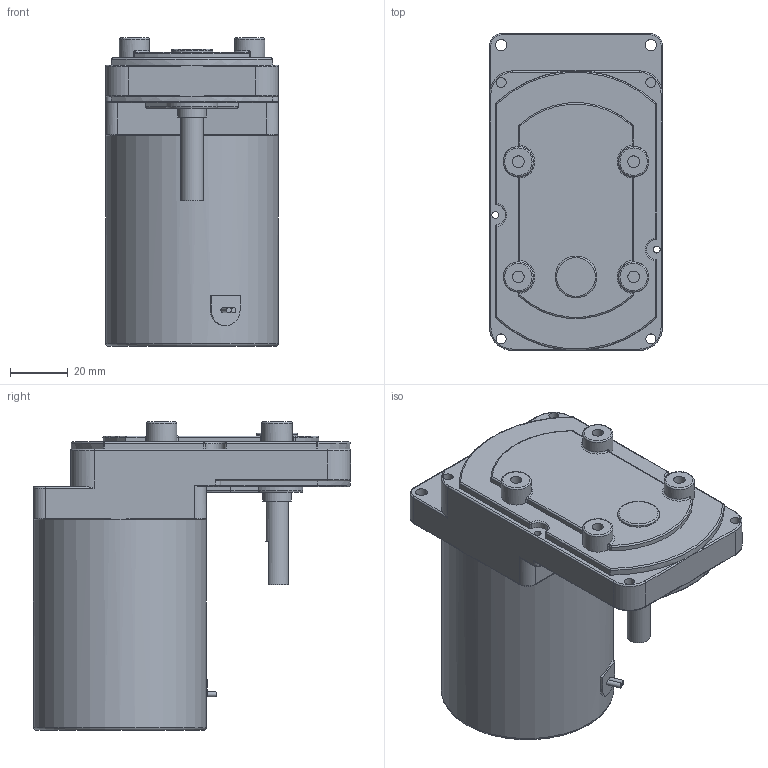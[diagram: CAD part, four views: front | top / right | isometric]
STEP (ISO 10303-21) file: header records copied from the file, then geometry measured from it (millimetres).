
FILE_DESCRIPTION((''),'2;1');
FILE_NAME('E:\2공장-도면\3D\표준형 3D(민규)\1공장 step\KGY (DC) R TYPE.stp','2015-02-26T17:23:17',('AHN'),(''),'Autodesk Inventor 2012','Autodesk Inventor 2012','');
FILE_SCHEMA(('CONFIG_CONTROL_DESIGN'));
Length unit declared in the file: millimetre
Products named in the file (1): KGY (DC) R타입
Bounding box: 60 x 110 x 107 mm (x, y, z)
Volume: 343303.3 mm3; surface area: 37874.8 mm2
Topology: 1 solids, 1 shells, 224 faces, 533 edges, 308 vertices
Faces by surface type: cylinder 99, plane 61, torus 32, bspline 24, sphere 8
Full cylindrical faces by diameter (mm): 1.78 x2, 2.4 x2, 3.5 x4, 4 x8, 8 x1, 10 x1, 10.5 x4, 14.5 x1, 60 x1
Entity records: 6885 total; most frequent: CARTESIAN_POINT 1928, DIRECTION 1079, ORIENTED_EDGE 958, EDGE_CURVE 479, AXIS2_PLACEMENT_3D 449, VERTEX_POINT 298, EDGE_LOOP 278, CIRCLE 246
